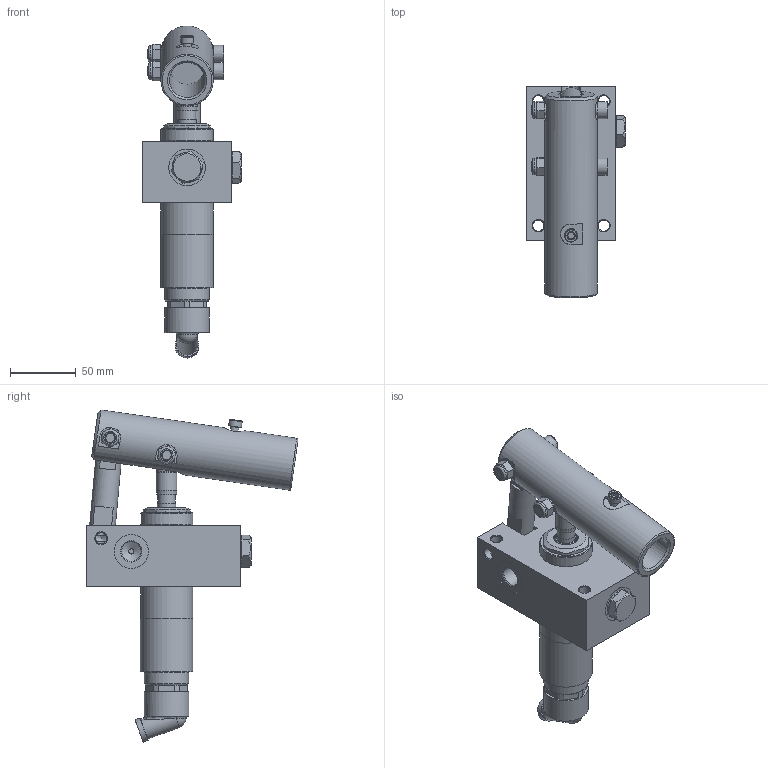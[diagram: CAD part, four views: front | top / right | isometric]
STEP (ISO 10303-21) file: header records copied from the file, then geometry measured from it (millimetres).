
FILE_DESCRIPTION(/* description */ ('Unknown'),/* implementation_level */ '2;1');
FILE_NAME(/* name */ 'AI316HPT-E',/* time_stamp */ '2024-11-28T14:27:25+01:00',/* author */ ('Unknown'),/* organization */ ('Unknown'),/* preprocessor_version */ 'ST-DEVELOPER v19.4',/* originating_system */ 'Solid Edge',/* authorisation */ 'Unknown');
FILE_SCHEMA (('AUTOMOTIVE_DESIGN {1 0 10303 214 3 1 1}'));
Products named in the file (1): AI316HPT-E
Bounding box: 75.43 x 161.56 x 253.09 mm (x, y, z)
Volume: 617304.6 mm3; surface area: 116228.1 mm2
Topology: 1 solids, 1 shells, 2059 faces, 5674 edges, 3664 vertices
Faces by surface type: plane 1796, cylinder 161, cone 58, torus 31, bspline 10, sphere 3
Full cylindrical faces by diameter (mm): 3.996 x2, 4.995 x1, 5.994 x2, 6.993 x4, 7.992 x11, 8.368 x1, 8.591 x6, 9.99 x1, 10.989 x2, 12.787 x2, 12.987 x2, 13.486 x1, 13.986 x2, 14.935 x4, 15.285 x1, 15.784 x1, 15.984 x1, 16.483 x1, 16.983 x1, 17.982 x3, 18.382 x1, 18.482 x1, 18.981 x1, 19.98 x3, 22.977 x3, 25.974 x2, 26.973 x2, 27.972 x1, 33.866 x1, 33.966 x1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
Entity records: 79099 total; most frequent: CARTESIAN_POINT 12602, ORIENTED_EDGE 10830, DIRECTION 10076, EDGE_CURVE 5415, LINE 4558, VECTOR 4558, VERTEX_POINT 3571, AXIS2_PLACEMENT_3D 2759
